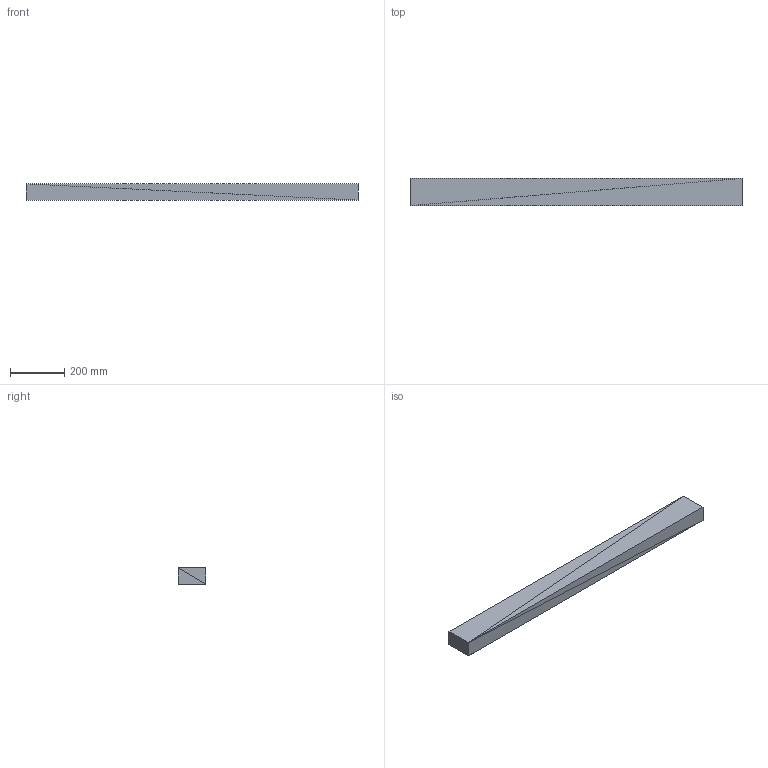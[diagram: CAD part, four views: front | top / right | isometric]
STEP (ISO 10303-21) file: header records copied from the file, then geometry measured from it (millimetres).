
FILE_DESCRIPTION(('ISINAC STEP AP214'),'2;1');
FILE_NAME('ISINAC_R.1220.100_60mm_ADHESIVO','2026-05-03T10:49:19',('ISINAC'),('www.isinac.com'),'ISINAC BIM Generator 1.0','','');
FILE_SCHEMA(('AUTOMOTIVE_DESIGN'));
Length unit declared in the file: millimetre
Products named in the file (1): ISINAC_R.1220.100_60mm_ADHESIVO
Bounding box: 1220 x 100 x 60 mm (x, y, z)
Surface area: 402400 mm2 (no closed solid volume)
Topology: 0 solids, 12 shells, 12 faces, 36 edges, 36 vertices
Faces by surface type: plane 12
Entity records: 145 total; most frequent: CARTESIAN_POINT 48, DIRECTION 24, POLY_LOOP 12, FACE_OUTER_BOUND 12, AXIS2_PLACEMENT_3D 12, PLANE 12, FACE_SURFACE 12, CLOSED_SHELL 1
